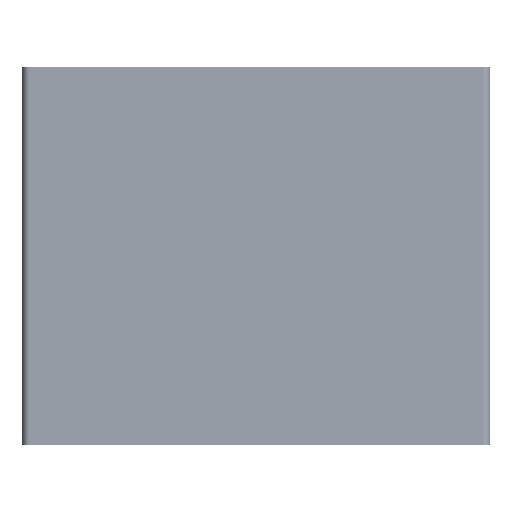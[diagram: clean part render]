
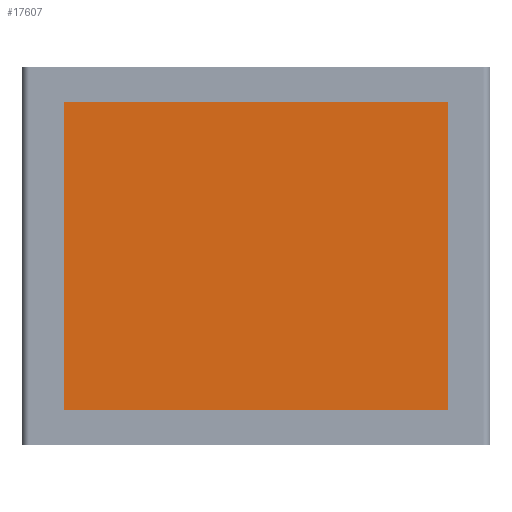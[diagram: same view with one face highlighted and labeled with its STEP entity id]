
A CAD part, front view. The second image highlights one B-rep face of the part: STEP entity #17607.
In plain terms, the highlighted planar face has unit normal (0, -1, 0).
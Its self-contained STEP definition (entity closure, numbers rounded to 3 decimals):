
#5017=DIRECTION('',(0.,0.,1.));
#5018=VECTOR('',#5017,271.34);
#5019=CARTESIAN_POINT('',(169.46,-7.4,-135.67));
#5020=LINE('',#5019,#5018);
#5021=DIRECTION('',(1.,0.,0.));
#5022=VECTOR('',#5021,338.92);
#5023=CARTESIAN_POINT('',(-169.46,-7.4,-135.67));
#5024=LINE('',#5023,#5022);
#5025=DIRECTION('',(0.,0.,-1.));
#5026=VECTOR('',#5025,271.34);
#5027=CARTESIAN_POINT('',(-169.46,-7.4,135.67));
#5028=LINE('',#5027,#5026);
#5029=DIRECTION('',(-1.,0.,0.));
#5030=VECTOR('',#5029,338.92);
#5031=CARTESIAN_POINT('',(169.46,-7.4,135.67));
#5032=LINE('',#5031,#5030);
#8620=CARTESIAN_POINT('',(169.46,-7.4,135.67));
#8621=VERTEX_POINT('',#8620);
#8622=CARTESIAN_POINT('',(169.46,-7.4,-135.67));
#8623=VERTEX_POINT('',#8622);
#8624=CARTESIAN_POINT('',(-169.46,-7.4,-135.67));
#8625=VERTEX_POINT('',#8624);
#8626=CARTESIAN_POINT('',(-169.46,-7.4,135.67));
#8627=VERTEX_POINT('',#8626);
#17596=CARTESIAN_POINT('',(0.,-7.4,0.));
#17597=DIRECTION('',(0.,1.,0.));
#17598=DIRECTION('',(-1.,0.,0.));
#17599=AXIS2_PLACEMENT_3D('',#17596,#17597,#17598);
#17600=PLANE('',#17599);
#17601=ORIENTED_EDGE('',*,*,#17548,.F.);
#17602=ORIENTED_EDGE('',*,*,#17563,.F.);
#17603=ORIENTED_EDGE('',*,*,#17577,.F.);
#17604=ORIENTED_EDGE('',*,*,#17590,.F.);
#17605=EDGE_LOOP('',(#17601,#17602,#17603,#17604));
#17606=FACE_OUTER_BOUND('',#17605,.F.);
#17607=ADVANCED_FACE('',(#17606),#17600,.F.);
#17548=EDGE_CURVE('',#8623,#8621,#5020,.T.);
#17563=EDGE_CURVE('',#8625,#8623,#5024,.T.);
#17577=EDGE_CURVE('',#8627,#8625,#5028,.T.);
#17590=EDGE_CURVE('',#8621,#8627,#5032,.T.);
